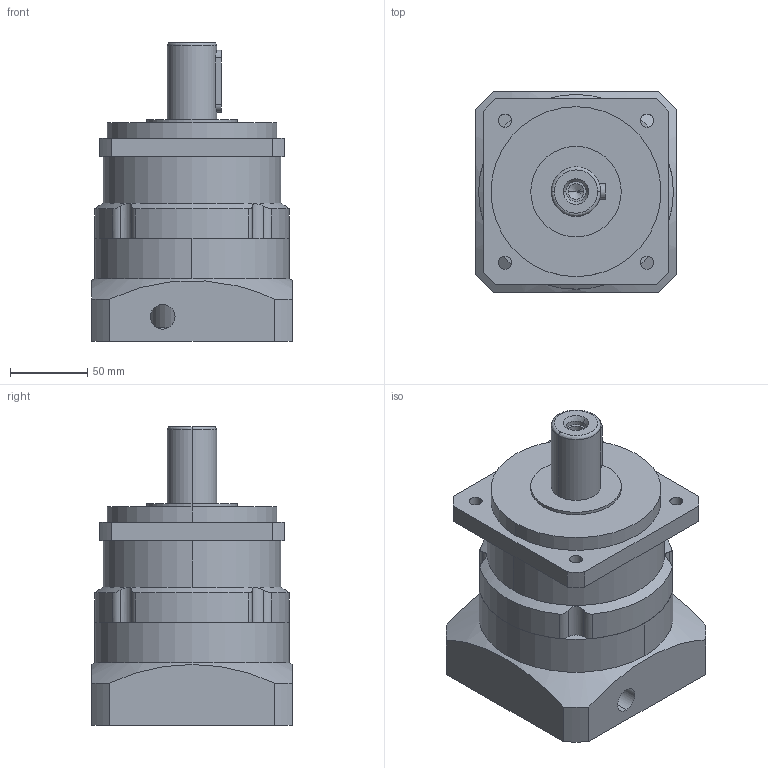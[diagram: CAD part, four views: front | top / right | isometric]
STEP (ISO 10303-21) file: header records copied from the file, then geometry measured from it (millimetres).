
FILE_DESCRIPTION (( 'STEP AP203' ), '1' );
FILE_NAME ('PLM120-L1-24-110-145.STEP', '2022-07-05T06:04:39', ( 'Windows User' ), ( 'P R C' ), 'SwSTEP 2.0', 'SolidWorks 2016', '' );
FILE_SCHEMA (( 'CONFIG_CONTROL_DESIGN' ));
Length unit declared in the file: millimetre
Products named in the file (7): 邧埴瑩 10x8x40; PLM120-L1-24-110-145; PA120-本体齿圈; PX120-薊粣ん-24_LZ03; PA120-帣釱; 囀鞠褒蹟佪-M8℅25; 粣創-6009 45x75x16
Assembly tree (6 placements, depth 2):
  PLM120-L1-24-110-145
    PA120-本体齿圈
    PX120-薊粣ん-24_LZ03
    PA120-帣釱
    囀鞠褒蹟佪-M8℅25
    粣創-6009 45x75x16
    邧埴瑩 10x8x40
Bounding box: 130 x 130 x 193.5 mm (x, y, z)
Volume: 1633682.7 mm3; surface area: 193307.4 mm2
Topology: 6 solids, 6 shells, 950 faces, 2616 edges, 1723 vertices
Faces by surface type: plane 532, bspline 258, cylinder 144, cone 16
Entity records: 40715 total; most frequent: CARTESIAN_POINT 17515, ORIENTED_EDGE 5212, DIRECTION 3882, EDGE_CURVE 2606, VERTEX_POINT 1723, LINE 1320, VECTOR 1320, AXIS2_PLACEMENT_3D 1281
